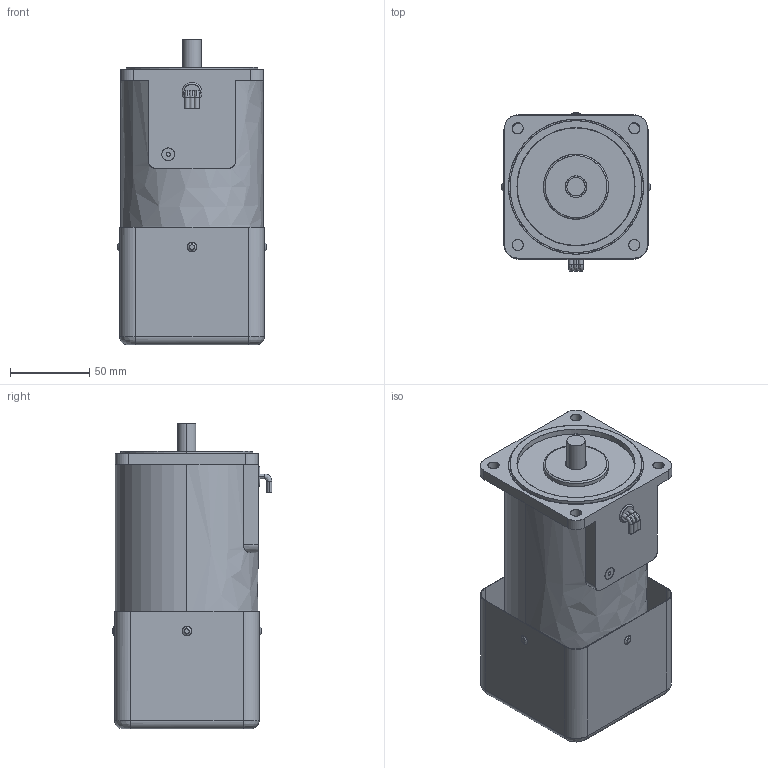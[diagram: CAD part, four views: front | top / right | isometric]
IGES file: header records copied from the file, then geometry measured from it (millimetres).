
Start section: SolidWorks IGES file using analytic representation for surfaces
Global section: file name: \\楷备家烹钦辑滚\data (D)\档搁 枚\权其捞瘤 档搁\6. TORQUE\90\40W\(6-44) 9TDG∴-40F2P.IGS; native system: SolidWorks 2007; preprocessor: SolidWorks 2007; author: user; date: 150625.094808; units: millimetre
Bounding box: 94 x 100.5 x 192.5 mm (x, y, z)
Surface area: 173677.6 mm2 (no closed solid volume)
Topology: 0 solids, 0 shells, 363 faces, 6565 edges, 6565 vertices
Faces by surface type: revolution 232, bspline 131
